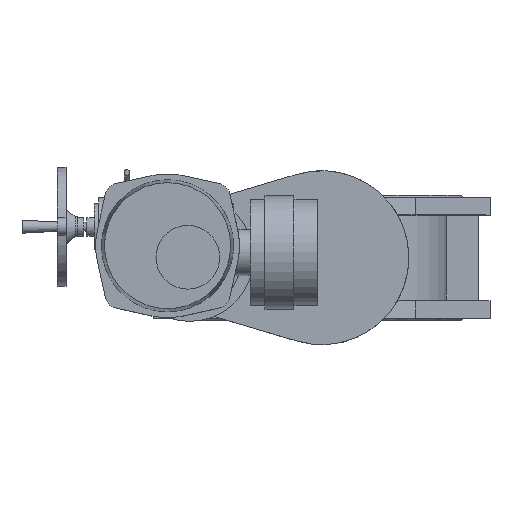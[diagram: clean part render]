
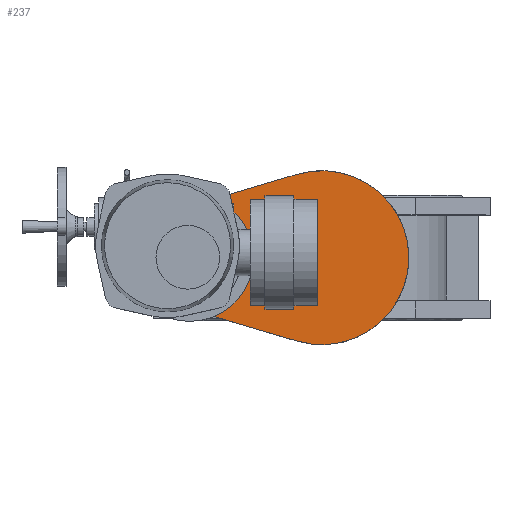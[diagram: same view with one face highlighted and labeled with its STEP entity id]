
A CAD part, top view. The second image highlights one B-rep face of the part: STEP entity #237.
In plain terms, the highlighted planar face has unit normal (0, 0, 1).
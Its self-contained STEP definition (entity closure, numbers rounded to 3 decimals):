
#237=ADVANCED_FACE('',(#3383),#3385,.F.);
#3383=FACE_BOUND('',#3384,.T.);
#3384=EDGE_LOOP('',(#6002,#6003,#6004,#6005,#6006));
#3385=PLANE('',#3386);
#3386=AXIS2_PLACEMENT_3D('',#3387,#3388,#3389);
#3387=CARTESIAN_POINT('',(-266.,20.,464.));
#3388=DIRECTION('',(0.,0.,-1.));
#3389=DIRECTION('',(-1.,0.,0.));
#6002=ORIENTED_EDGE('',*,*,#7856,.T.);
#6003=ORIENTED_EDGE('',*,*,#7857,.T.);
#6004=ORIENTED_EDGE('',*,*,#7858,.F.);
#6005=ORIENTED_EDGE('',*,*,#7830,.F.);
#6006=ORIENTED_EDGE('',*,*,#7859,.F.);
#7830=EDGE_CURVE('',#8794,#8795,#8796,.T.);
#7856=EDGE_CURVE('',#8843,#8844,#8845,.F.);
#7857=EDGE_CURVE('',#8844,#8846,#8847,.F.);
#7858=EDGE_CURVE('',#8795,#8846,#8848,.T.);
#7859=EDGE_CURVE('',#8843,#8794,#8849,.T.);
#8794=VERTEX_POINT('',#10477);
#8795=VERTEX_POINT('',#10478);
#8796=CIRCLE('',#10479,150.);
#8843=VERTEX_POINT('',#10602);
#8844=VERTEX_POINT('',#10603);
#8845=CIRCLE('',#10604,85.);
#8846=VERTEX_POINT('',#10608);
#8847=CIRCLE('',#10609,85.);
#8848=LINE('',#10613,#10614);
#8849=LINE('',#10616,#10617);
#10477=CARTESIAN_POINT('',(-42.763,143.775,464.));
#10478=CARTESIAN_POINT('',(-42.763,-143.775,464.));
#10479=AXIS2_PLACEMENT_3D('',#10480,#10481,#10482);
#10480=CARTESIAN_POINT('',(0.,0.,464.));
#10481=DIRECTION('',(0.,0.,-1.));
#10482=DIRECTION('',(-0.285,0.959,0.));
#10602=CARTESIAN_POINT('',(-252.232,81.473,464.));
#10603=CARTESIAN_POINT('',(-143.,0.,464.));
#10604=AXIS2_PLACEMENT_3D('',#10605,#10606,#10607);
#10605=CARTESIAN_POINT('',(-228.,0.,464.));
#10606=DIRECTION('',(0.,0.,1.));
#10607=DIRECTION('',(1.,0.,0.));
#10608=CARTESIAN_POINT('',(-252.232,-81.473,464.));
#10609=AXIS2_PLACEMENT_3D('',#10610,#10611,#10612);
#10610=CARTESIAN_POINT('',(-228.,0.,464.));
#10611=DIRECTION('',(0.,0.,1.));
#10612=DIRECTION('',(-0.285,-0.959,0.));
#10613=CARTESIAN_POINT('',(-42.763,-143.775,464.));
#10614=VECTOR('',#10615,1.);
#10615=DIRECTION('',(-0.959,0.285,0.));
#10616=CARTESIAN_POINT('',(-252.232,81.473,464.));
#10617=VECTOR('',#10618,1.);
#10618=DIRECTION('',(0.959,0.285,0.));
